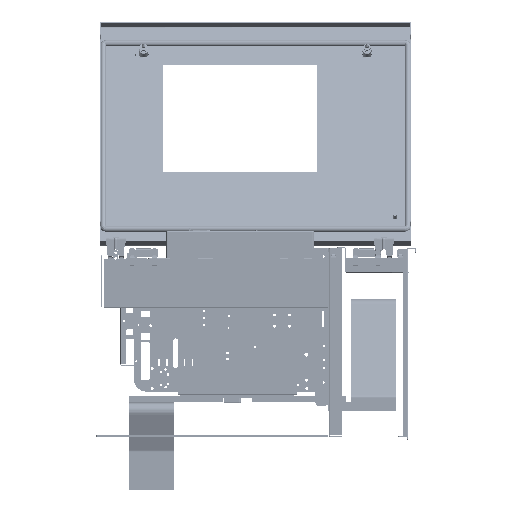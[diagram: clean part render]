
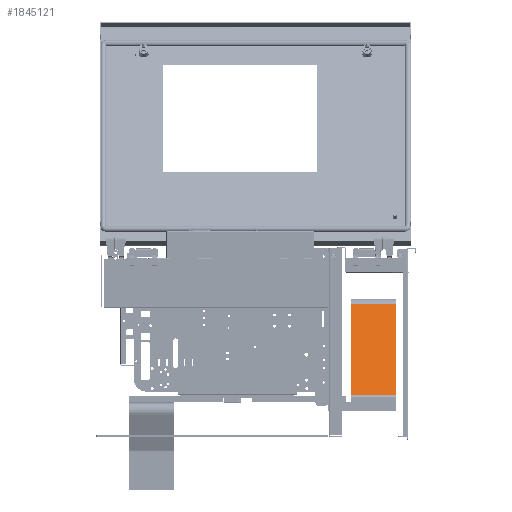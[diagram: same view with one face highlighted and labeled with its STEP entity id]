
A CAD part, left-side view. The second image highlights one B-rep face of the part: STEP entity #1845121.
In plain terms, the highlighted planar face has unit normal (-0.906, 0, 0.423).
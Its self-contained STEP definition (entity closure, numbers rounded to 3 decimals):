
#1843476=CARTESIAN_POINT(' ',(59.507,50.,10.774));
#1843481=DIRECTION(' ',(0.423,0.,0.906));
#1843486=VECTOR(' ',#1843481,1.);
#1843491=LINE('',#1843476,#1843486);
#1843496=CARTESIAN_POINT(' ',(59.507,50.,10.774));
#1843497=VERTEX_POINT(' ',#1843496);
#1843501=CARTESIAN_POINT(' ',(154.764,50.,215.052));
#1843502=VERTEX_POINT(' ',#1843501);
#1843506=EDGE_CURVE(' ',#1843497,#1843502,#1843491,.T.);
#1844071=CARTESIAN_POINT(' ',(154.764,-50.,215.052));
#1844072=VERTEX_POINT(' ',#1844071);
#1844086=CARTESIAN_POINT(' ',(59.507,-50.,10.774));
#1844091=DIRECTION(' ',(0.423,0.,0.906));
#1844096=VECTOR(' ',#1844091,1.);
#1844101=LINE('',#1844086,#1844096);
#1844106=CARTESIAN_POINT(' ',(59.507,-50.,10.774));
#1844107=VERTEX_POINT(' ',#1844106);
#1844111=EDGE_CURVE(' ',#1844107,#1844072,#1844101,.T.);
#1844986=CARTESIAN_POINT(' ',(59.507,50.,10.774));
#1844991=DIRECTION(' ',(0.,-1.,0.));
#1844996=VECTOR(' ',#1844991,1.);
#1845001=LINE('',#1844986,#1844996);
#1845006=EDGE_CURVE(' ',#1843497,#1844107,#1845001,.T.);
#1845041=DIRECTION(' ',(-0.906,-0.,0.423));
#1845046=CARTESIAN_POINT(' ',(59.507,-50.,10.774));
#1845051=DIRECTION(' ',(0.423,0.,0.906));
#1845056=AXIS2_PLACEMENT_3D(' ',#1845046,#1845041,#1845051);
#1845061=PLANE('NONE',#1845056);
#1845066=ORIENTED_EDGE(' ',*,*,#1844111,.T.);
#1845071=CARTESIAN_POINT(' ',(154.764,-50.,215.052));
#1845076=DIRECTION(' ',(0.,1.,0.));
#1845081=VECTOR(' ',#1845076,1.);
#1845086=LINE('',#1845071,#1845081);
#1845091=EDGE_CURVE(' ',#1844072,#1843502,#1845086,.T.);
#1845096=ORIENTED_EDGE(' ',*,*,#1845091,.T.);
#1845101=ORIENTED_EDGE(' ',*,*,#1843506,.F.);
#1845106=ORIENTED_EDGE(' ',*,*,#1845006,.T.);
#1845111=EDGE_LOOP(' ',(#1845066,#1845096,#1845101,#1845106));
#1845116=FACE_OUTER_BOUND(' ',#1845111,.T.);
#1845121=ADVANCED_FACE('NONE',(#1845116),#1845061,.T.);
